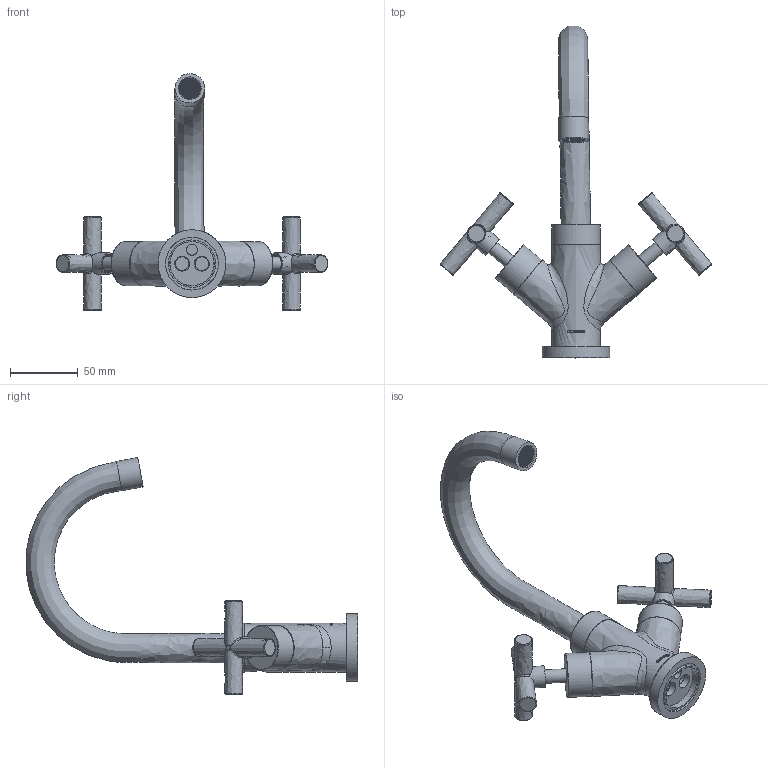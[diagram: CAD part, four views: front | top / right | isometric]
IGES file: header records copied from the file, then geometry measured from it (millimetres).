
Global section: file name: 50e91706-425a-43f2-a58e-9f329c53d12d; native system: unknown; preprocessor: unknown; author: unknown; organization: unknown; date: 20201001.094040; units: millimetre
Bounding box: 200.52 x 245.03 x 174.85 mm (x, y, z)
Volume: 282845.7 mm3; surface area: 101648 mm2
Topology: 38 solids, 38 shells, 3100 faces, 9208 edges, 6172 vertices
Faces by surface type: bspline 3100
